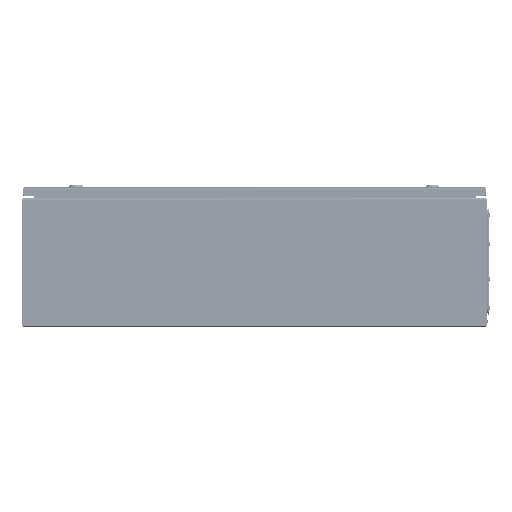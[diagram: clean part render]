
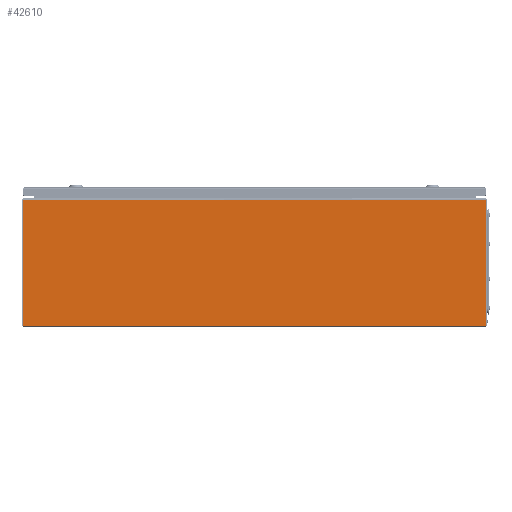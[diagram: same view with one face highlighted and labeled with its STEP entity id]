
A CAD part, left-side view. The second image highlights one B-rep face of the part: STEP entity #42610.
In plain terms, the highlighted planar face has unit normal (-1, 0, 0).
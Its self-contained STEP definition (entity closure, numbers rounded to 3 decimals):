
#234 = CARTESIAN_POINT ( 'NONE',  ( -400., -498.5, -147.1 ) ) ;
#3832 = VECTOR ( 'NONE', #38456, 1000. ) ;
#3851 = DIRECTION ( 'NONE',  ( 0., 0., 1. ) ) ;
#4844 = LINE ( 'NONE', #26715, #18049 ) ;
#6058 = DIRECTION ( 'NONE',  ( 0., -1., 0. ) ) ;
#6421 = ORIENTED_EDGE ( 'NONE', *, *, #34680, .T. ) ;
#7377 = VECTOR ( 'NONE', #12719, 1000. ) ;
#7518 = LINE ( 'NONE', #25718, #42992 ) ;
#8608 = CARTESIAN_POINT ( 'NONE',  ( -400., 498.5, -147.1 ) ) ;
#8758 = ORIENTED_EDGE ( 'NONE', *, *, #43829, .F. ) ;
#9083 = DIRECTION ( 'NONE',  ( 0., 0., -1. ) ) ;
#10233 = EDGE_CURVE ( 'NONE', #13284, #31652, #29279, .T. ) ;
#11262 = DIRECTION ( 'NONE',  ( 0., 0., -1. ) ) ;
#11699 = VECTOR ( 'NONE', #6058, 1000. ) ;
#12553 = DIRECTION ( 'NONE',  ( -1., 0., 0. ) ) ;
#12694 = CARTESIAN_POINT ( 'NONE',  ( -400., 498.317, 123.85 ) ) ;
#12719 = DIRECTION ( 'NONE',  ( 0., -1., 0. ) ) ;
#12830 = PLANE ( 'NONE',  #50291 ) ;
#13058 = EDGE_CURVE ( 'NONE', #31652, #27597, #19406, .T. ) ;
#13284 = VERTEX_POINT ( 'NONE', #36451 ) ;
#13596 = CARTESIAN_POINT ( 'NONE',  ( -400., 498.5, 123.75 ) ) ;
#14151 = DIRECTION ( 'NONE',  ( 0., 1., 0. ) ) ;
#14326 = VERTEX_POINT ( 'NONE', #45264 ) ;
#14374 = CARTESIAN_POINT ( 'NONE',  ( -400., 498.5, 123.85 ) ) ;
#16019 = CARTESIAN_POINT ( 'NONE',  ( -400., 498.5, -150. ) ) ;
#17035 = LINE ( 'NONE', #8608, #11699 ) ;
#17220 = CARTESIAN_POINT ( 'NONE',  ( -400., 498.5, 123.75 ) ) ;
#17432 = ORIENTED_EDGE ( 'NONE', *, *, #10233, .F. ) ;
#17521 = VERTEX_POINT ( 'NONE', #44849 ) ;
#18049 = VECTOR ( 'NONE', #9083, 1000. ) ;
#19352 = ORIENTED_EDGE ( 'NONE', *, *, #41598, .F. ) ;
#19406 = LINE ( 'NONE', #20512, #3832 ) ;
#19976 = CARTESIAN_POINT ( 'NONE',  ( -400., -498.317, 123.85 ) ) ;
#20459 = VECTOR ( 'NONE', #11262, 1000. ) ;
#20512 = CARTESIAN_POINT ( 'NONE',  ( -400., 498.317, -150. ) ) ;
#21266 = ORIENTED_EDGE ( 'NONE', *, *, #23198, .F. ) ;
#21592 = ORIENTED_EDGE ( 'NONE', *, *, #43245, .T. ) ;
#22484 = ORIENTED_EDGE ( 'NONE', *, *, #54677, .T. ) ;
#23198 = EDGE_CURVE ( 'NONE', #17521, #32657, #7518, .T. ) ;
#25718 = CARTESIAN_POINT ( 'NONE',  ( -400., -498.5, -150. ) ) ;
#26715 = CARTESIAN_POINT ( 'NONE',  ( -400., -498.317, -150. ) ) ;
#26987 = LINE ( 'NONE', #14374, #40557 ) ;
#27597 = VERTEX_POINT ( 'NONE', #12694 ) ;
#27674 = VERTEX_POINT ( 'NONE', #35405 ) ;
#29279 = LINE ( 'NONE', #17220, #7377 ) ;
#31652 = VERTEX_POINT ( 'NONE', #45305 ) ;
#32657 = VERTEX_POINT ( 'NONE', #234 ) ;
#33393 = VECTOR ( 'NONE', #14151, 1000. ) ;
#33979 = VERTEX_POINT ( 'NONE', #19976 ) ;
#34680 = EDGE_CURVE ( 'NONE', #14326, #32657, #17035, .T. ) ;
#35405 = CARTESIAN_POINT ( 'NONE',  ( -400., -498.317, 123.75 ) ) ;
#35720 = ORIENTED_EDGE ( 'NONE', *, *, #13058, .F. ) ;
#36451 = CARTESIAN_POINT ( 'NONE',  ( -400., 498.5, 123.75 ) ) ;
#38069 = FACE_OUTER_BOUND ( 'NONE', #41203, .T. ) ;
#38456 = DIRECTION ( 'NONE',  ( 0., 0., 1. ) ) ;
#39113 = LINE ( 'NONE', #13596, #33393 ) ;
#40557 = VECTOR ( 'NONE', #40690, 1000. ) ;
#40690 = DIRECTION ( 'NONE',  ( 0., -1., 0. ) ) ;
#40967 = LINE ( 'NONE', #16019, #20459 ) ;
#41203 = EDGE_LOOP ( 'NONE', ( #8758, #35720, #17432, #22484, #6421, #21266, #21592, #19352 ) ) ;
#41598 = EDGE_CURVE ( 'NONE', #33979, #27674, #4844, .T. ) ;
#42610 = ADVANCED_FACE ( 'NONE', ( #38069 ), #12830, .T. ) ;
#42992 = VECTOR ( 'NONE', #55163, 1000. ) ;
#43245 = EDGE_CURVE ( 'NONE', #17521, #27674, #39113, .T. ) ;
#43829 = EDGE_CURVE ( 'NONE', #27597, #33979, #26987, .T. ) ;
#44849 = CARTESIAN_POINT ( 'NONE',  ( -400., -498.5, 123.75 ) ) ;
#45264 = CARTESIAN_POINT ( 'NONE',  ( -400., 498.5, -147.1 ) ) ;
#45305 = CARTESIAN_POINT ( 'NONE',  ( -400., 498.317, 123.75 ) ) ;
#50291 = AXIS2_PLACEMENT_3D ( 'NONE', #51513, #12553, #3851 ) ;
#51513 = CARTESIAN_POINT ( 'NONE',  ( -400., 498.5, -150. ) ) ;
#54677 = EDGE_CURVE ( 'NONE', #13284, #14326, #40967, .T. ) ;
#55163 = DIRECTION ( 'NONE',  ( 0., 0., -1. ) ) ;
